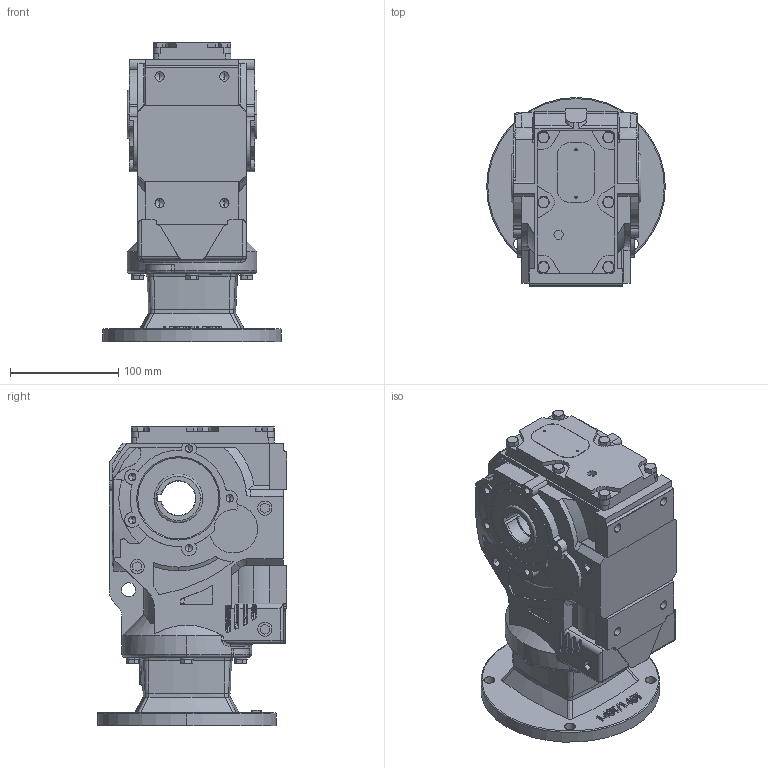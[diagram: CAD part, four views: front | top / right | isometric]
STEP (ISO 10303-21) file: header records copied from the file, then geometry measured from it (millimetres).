
FILE_DESCRIPTION (( 'STEP AP203' ), '1' );
FILE_NAME ('KAN37-143-5TC.STEP', '2022-04-08T07:59:35', ( 'user1' ), ( '' ), 'SwSTEP 2.0', 'SolidWorks 2012', '' );
FILE_SCHEMA (( 'CONFIG_CONTROL_DESIGN' ));
Length unit declared in the file: millimetre
Products named in the file (1): KAN37-143-5TC
Bounding box: 165.1 x 174.75 x 276.5 mm (x, y, z)
Volume: 1489487.5 mm3; surface area: 434049.4 mm2
Topology: 2 solids, 2 shells, 1709 faces, 4438 edges, 2835 vertices
Faces by surface type: plane 722, cylinder 567, cone 213, bspline 130, torus 51, sphere 26
Entity records: 61604 total; most frequent: CARTESIAN_POINT 20349, ORIENTED_EDGE 8812, DIRECTION 8309, EDGE_CURVE 4406, AXIS2_PLACEMENT_3D 2985, VERTEX_POINT 2835, LINE 2339, VECTOR 2339
